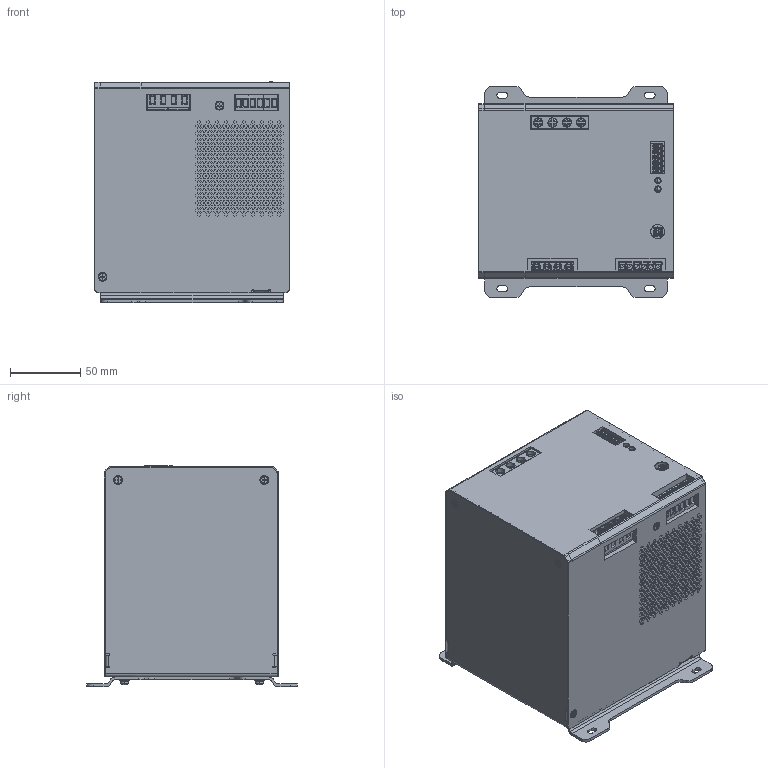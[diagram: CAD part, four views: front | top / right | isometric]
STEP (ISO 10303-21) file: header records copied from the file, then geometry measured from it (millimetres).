
FILE_DESCRIPTION (( 'STEP AP214' ), '1' );
FILE_NAME ('BACM2440 WZ.STEP', '2025-07-16T08:03:34', ( '' ), ( '' ), 'SwSTEP 2.0', 'SolidWorks 2024', '' );
FILE_SCHEMA (( 'AUTOMOTIVE_DESIGN' ));
Products named in the file (1): BACM2440 WZ
Bounding box: 138.3 x 150 x 157.6 mm (x, y, z)
Surface area: 168619.2 mm2
Topology: 9 solids, 10 shells, 8724 faces, 23026 edges, 15294 vertices
Faces by surface type: plane 7813, bspline 835, cylinder 76
Entity records: 296036 total; most frequent: CARTESIAN_POINT 116934, ORIENTED_EDGE 45982, EDGE_CURVE 22991, DIRECTION 22270, B_SPLINE_CURVE_WITH_KNOTS 15706, VERTEX_POINT 15288, EDGE_LOOP 9797, FACE_OUTER_BOUND 8724
